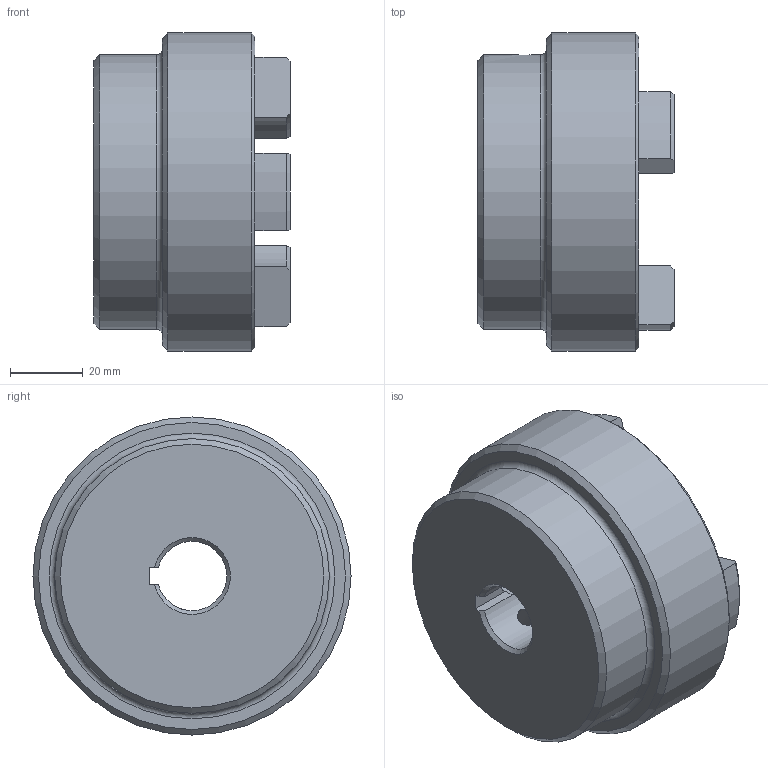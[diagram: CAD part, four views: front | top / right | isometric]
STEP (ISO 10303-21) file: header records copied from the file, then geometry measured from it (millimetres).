
FILE_DESCRIPTION (( 'STEP AP203' ), '1' );
FILE_NAME ('RC3.step', '2024-07-24T12:44:40', ( 'Adlan' ), ( '' ), 'SwSTEP 2.0', 'SolidWorks 2013', '' );
FILE_SCHEMA (( 'CONFIG_CONTROL_DESIGN' ));
Length unit declared in the file: inch
Products named in the file (1): RC3
Bounding box: 53.85 x 87.38 x 87.38 mm (x, y, z)
Volume: 185865.5 mm3; surface area: 30406.1 mm2
Topology: 1 solids, 1 shells, 70 faces, 180 edges, 113 vertices
Faces by surface type: cylinder 26, plane 19, torus 13, cone 12
Full cylindrical faces by diameter (mm): 5.105 x2, 75.438 x1, 87.376 x1
Entity records: 2365 total; most frequent: CARTESIAN_POINT 601, DIRECTION 370, ORIENTED_EDGE 332, EDGE_CURVE 166, AXIS2_PLACEMENT_3D 146, VERTEX_POINT 109, EDGE_LOOP 87, VECTOR 78
